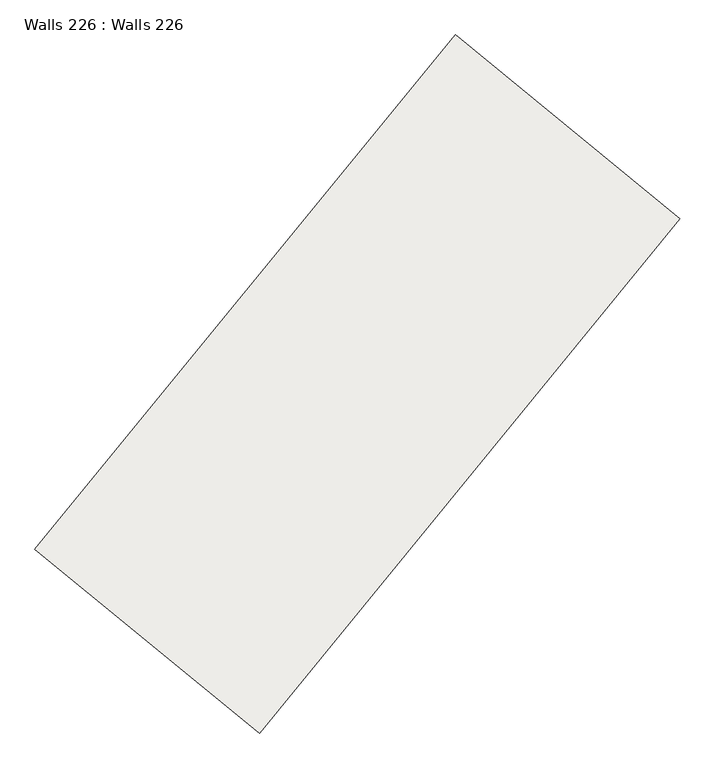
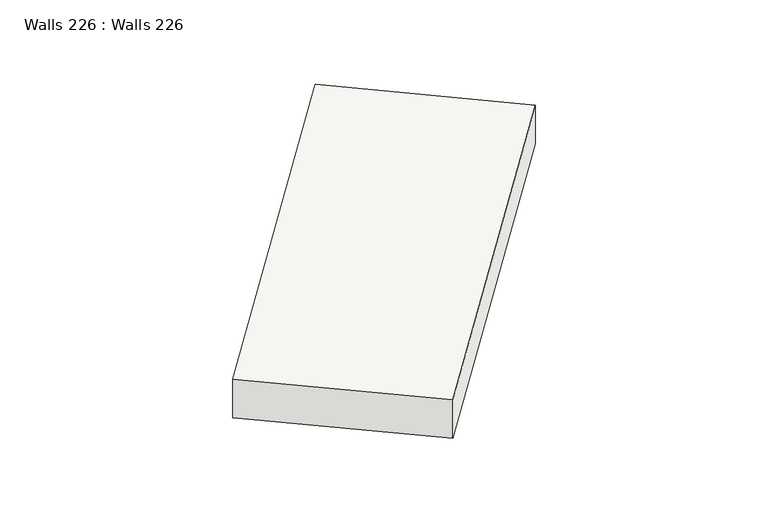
"""IFC4 building model written with IfcOpenShell, lengths in millimetres: slab geometry, Walls 226 : Walls 226."""

import ifcopenshell
import ifcopenshell.guid

model = None  # the IFC model being written
_history = None  # IfcOwnerHistory: only IFC2X3 demands one
_inside = {}  # id of a spatial element -> (the spatial element, [elements in it])
_under = {}  # id of a project, library or spatial element -> (it, [spatial elements below it])
_declared = {}  # id of a project -> (the project, [libraries it declares])
_typed = {}  # id of a type object -> (the type object, [elements of that type])
_made_of = {}  # id of a material, layer set ... -> (it, [elements and type objects made of it])


def new_model(schema):
    """Start an empty IFC model of exactly this schema.

    Asked for "IFC4X3", IfcOpenShell would pick the latest addendum, in which some entities
    have other attributes; the version numbers below select the first issue.
    IFC2X3 requires an IfcOwnerHistory on every rooted entity: one is made here for all.
    """
    global model, _history
    if schema == "IFC4X3":
        model = ifcopenshell.file(schema_version=(4, 3, 0, 0))
    else:
        model = ifcopenshell.file(schema=schema)
    _inside.clear()
    _under.clear()
    _declared.clear()
    _typed.clear()
    _made_of.clear()
    _history = None
    if model.schema == "IFC2X3":
        org = make("IfcOrganization", Name="unknown")
        user = make(
            "IfcPersonAndOrganization",
            ThePerson=make("IfcPerson", FamilyName="unknown"),
            TheOrganization=org,
        )
        app = make(
            "IfcApplication",
            ApplicationDeveloper=org,
            Version="unknown",
            ApplicationFullName="unknown",
            ApplicationIdentifier="unknown",
        )
        _history = make(
            "IfcOwnerHistory",
            OwningUser=user,
            OwningApplication=app,
            ChangeAction="ADDED",
            CreationDate=0,
        )
    return model


def make(cls, **values):
    """One entity of the class cls with the attributes given. An attribute that is None is left unset."""
    return model.create_entity(
        cls, **{name: value for name, value in values.items() if value is not None}
    )


def rooted(cls, **values):
    """An entity with a GlobalId (a new one), such as an element, a storey or a relation."""
    return make(cls, GlobalId=ifcopenshell.guid.new(), OwnerHistory=_history, **values)


def si_unit(unit_type, name, prefix=None):
    """IfcSIUnit, for example si_unit("LENGTHUNIT", "METRE", prefix="MILLI")."""
    return make("IfcSIUnit", UnitType=unit_type, Prefix=prefix, Name=name)


def assignment(units):
    """IfcUnitAssignment: the units of a project."""
    return None if units is None else make("IfcUnitAssignment", Units=units)


def point(xyz):
    """IfcCartesianPoint."""
    return None if xyz is None else make("IfcCartesianPoint", Coordinates=xyz)


def direction(xyz):
    """IfcDirection."""
    return None if xyz is None else make("IfcDirection", DirectionRatios=xyz)


def frame(location, z_axis=None, x_axis=None):
    """IfcAxis2Placement3D, a coordinate frame: its origin and axes. An axis left out is left unset."""
    return make(
        "IfcAxis2Placement3D",
        Location=point(location),
        Axis=direction(z_axis),
        RefDirection=direction(x_axis),
    )


def origin():
    """The frame at (0, 0, 0) with its axes left unset."""
    return frame((0.0, 0.0, 0.0))


def place(relative_to, where):
    """IfcLocalPlacement: puts the frame where relative to a parent placement (None: the world)."""
    return make(
        "IfcLocalPlacement", PlacementRelTo=relative_to, RelativePlacement=where
    )


def context(
    kind, dimensions, precision=None, world=None, true_north=None, identifier=None
):
    """IfcGeometricRepresentationContext, for example the 3D "Model" context."""
    return make(
        "IfcGeometricRepresentationContext",
        ContextIdentifier=identifier,
        ContextType=kind,
        CoordinateSpaceDimension=dimensions,
        Precision=precision,
        WorldCoordinateSystem=world,
        TrueNorth=true_north,
    )


def project(units=None, contexts=None):
    """IfcProject with its units and contexts."""
    return rooted(
        "IfcProject",
        Name="project",
        RepresentationContexts=contexts,
        UnitsInContext=assignment(units),
    )


def spatial(cls, under=None, at=None, **own):
    """A site, building, storey or space (cls), placed at a placement, below another one or the project."""
    s = rooted(cls, ObjectPlacement=at, **own)
    if under is not None:
        _under.setdefault(under.id(), (under, []))[1].append(s)
    return s


def polyline(points):
    """IfcPolyline through the points."""
    return make("IfcPolyline", Points=[point(p) for p in points])


def outline(outer, holes=None, kind="AREA"):
    """IfcArbitraryClosedProfileDef: a profile drawn as a closed curve; with holes, ...WithVoids."""
    if holes is None:
        return make("IfcArbitraryClosedProfileDef", ProfileType=kind, OuterCurve=outer)
    return make(
        "IfcArbitraryProfileDefWithVoids",
        ProfileType=kind,
        OuterCurve=outer,
        InnerCurves=holes,
    )


def extrude(swept, where, along, depth):
    """IfcExtrudedAreaSolid: the profile swept, set in the frame where, extruded along a direction by depth."""
    return make(
        "IfcExtrudedAreaSolid",
        SweptArea=swept,
        Position=where,
        ExtrudedDirection=direction(along),
        Depth=depth,
    )


def shape(context_of_items, identifier, shape_type, items):
    """IfcShapeRepresentation: the items that make up one representation, for example the "Body"."""
    return make(
        "IfcShapeRepresentation",
        ContextOfItems=context_of_items,
        RepresentationIdentifier=identifier,
        RepresentationType=shape_type,
        Items=items,
    )


def source(mapping_origin, context_of_items, identifier, shape_type, items):
    """IfcRepresentationMap: a shape defined once, which mapped items show again and again."""
    return make(
        "IfcRepresentationMap",
        MappingOrigin=mapping_origin,
        MappedRepresentation=shape(context_of_items, identifier, shape_type, items),
    )


def transform(
    local_origin,
    x_axis=None,
    y_axis=None,
    z_axis=None,
    scale=None,
    scale2=None,
    scale3=None,
    uniform=True,
):
    """IfcCartesianTransformationOperator3D, or its non-uniform kind. x_axis, y_axis, z_axis: its Axis1, 2, 3."""
    if uniform:
        return make(
            "IfcCartesianTransformationOperator3D",
            Axis1=direction(x_axis),
            Axis2=direction(y_axis),
            LocalOrigin=point(local_origin),
            Scale=scale,
            Axis3=direction(z_axis),
        )
    return make(
        "IfcCartesianTransformationOperator3DnonUniform",
        Axis1=direction(x_axis),
        Axis2=direction(y_axis),
        LocalOrigin=point(local_origin),
        Scale=scale,
        Axis3=direction(z_axis),
        Scale2=scale2,
        Scale3=scale3,
    )


def mapped(mapping_source, mapping_target):
    """IfcMappedItem: shows the shape of a source again, moved by a transform."""
    return make(
        "IfcMappedItem", MappingSource=mapping_source, MappingTarget=mapping_target
    )


def made_of(thing, what):
    """Note that an element or type object is made of a material, layer set ...; save() writes the relation."""
    if what is not None:
        _made_of.setdefault(what.id(), (what, []))[1].append(thing)
    return thing


def element(
    cls,
    number,
    at=None,
    inside=None,
    cuts=None,
    type_object=None,
    material=None,
    context=None,
    identifier="Body",
    shape_type=None,
    held_by="IfcProductDefinitionShape",
    body=None,
    shapes=None,
    **own,
):
    """One element of the class cls, such as IfcWall. Its Tag is "e" and its number.

    at: its placement. inside: the storey or other place that contains it. cuts: it is an
    opening in that element (IfcRelVoidsElement). A single representation is given by context,
    identifier, shape_type and body (its items); several are given by shapes. held_by: the class
    of the entity that holds the representations. save() writes the other relations.
    """
    e = rooted(cls, Tag="e%d" % number, ObjectPlacement=at, **own)
    if body is not None:
        shapes = [shape(context, identifier, shape_type, body)]
    if shapes is not None:
        e.Representation = make(held_by, Representations=shapes)
    if inside is not None:
        _inside.setdefault(inside.id(), (inside, []))[1].append(e)
    if cuts is not None:
        rooted(
            "IfcRelVoidsElement", RelatingBuildingElement=cuts, RelatedOpeningElement=e
        )
    if type_object is not None:
        _typed.setdefault(type_object.id(), (type_object, []))[1].append(e)
    return made_of(e, material)


def aggregate(whole, parts):
    """IfcRelAggregates: a whole, such as a stair, and the parts it consists of."""
    return rooted("IfcRelAggregates", RelatingObject=whole, RelatedObjects=parts)


def save(model, path):
    """Write the relations noted so far, then the file.

    IfcRelAggregates (storeys below a building ...), IfcRelContainedInSpatialStructure (elements
    in a storey), IfcRelDefinesByType, IfcRelAssociatesMaterial and IfcRelDeclares: one each for
    every whole, place, type object, material and project.
    """
    for whole, parts in _under.values():
        aggregate(whole, parts)
    for where, things in _inside.values():
        rooted(
            "IfcRelContainedInSpatialStructure",
            RelatedElements=things,
            RelatingStructure=where,
        )
    for kind, things in _typed.values():
        rooted("IfcRelDefinesByType", RelatedObjects=things, RelatingType=kind)
    for what, things in _made_of.values():
        rooted("IfcRelAssociatesMaterial", RelatedObjects=things, RelatingMaterial=what)
    for by, libraries in _declared.values():
        rooted("IfcRelDeclares", RelatingContext=by, RelatedDefinitions=libraries)
    model.write(path)


def walls_226_walls_226_c0262b52(model_context):
    return source(origin(), model_context, "Body", "SweptSolid", [
        extrude(outline(polyline([(-400.0, 0.0), (400.0, 0.0), (288.0, -8700.0000008), (-512.0, -8700.0000008), (-400.0, 0.0)])), frame((413148.9098391, 283933.9823354, 645650.0), z_axis=(-0.773962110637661, 0.6332319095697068, 0.0), x_axis=(0.0, 0.0, 1.0)), (0.0, 0.0, 1.0), 3800.0),
    ])


if __name__ == "__main__":
    model = new_model("IFC4")
    model_context = context("Model", 3, world=origin())
    ifc_project = project(units=[si_unit("LENGTHUNIT", "METRE", prefix="MILLI")], contexts=[model_context])
    site = spatial("IfcSite", under=ifc_project)
    building = spatial("IfcBuilding", under=site)
    placement = place(None, origin())
    walls_226_walls_226_shape = walls_226_walls_226_c0262b52(model_context)
    element("IfcSlab", 1, ObjectType="Walls 226 : Walls 226", at=placement, inside=building, context=model_context, shape_type="MappedRepresentation", body=[
        mapped(walls_226_walls_226_shape, transform((0.0, 0.0, 0.0), x_axis=(1.0, 0.0, 0.0), y_axis=(0.0, 1.0, 0.0), z_axis=(0.0, 0.0, 1.0))),
    ])
    save(model, "model.ifc")
